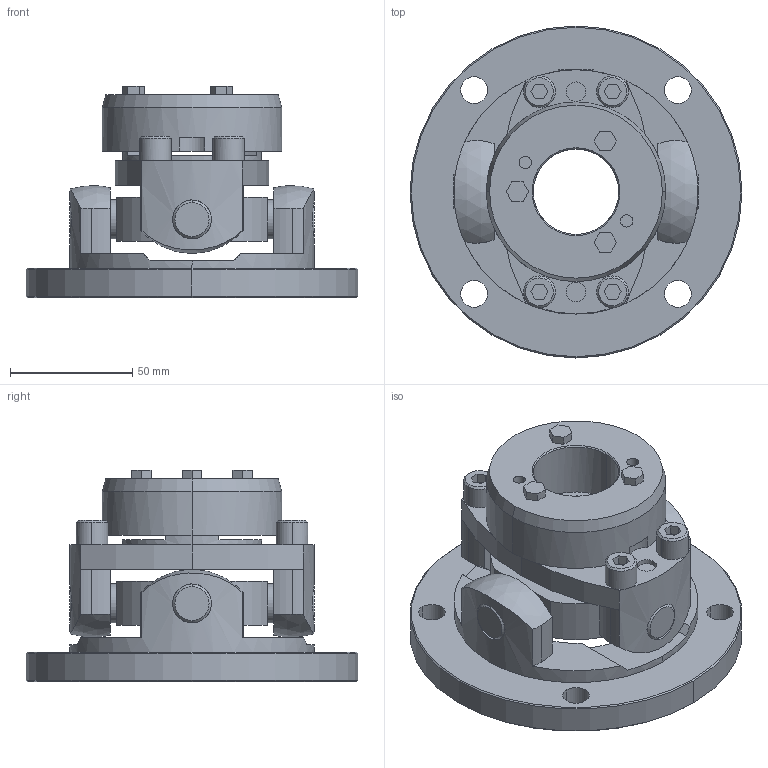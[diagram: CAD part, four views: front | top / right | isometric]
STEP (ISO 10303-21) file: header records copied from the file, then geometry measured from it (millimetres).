
FILE_DESCRIPTION((''),'2;1');
FILE_NAME('UCNF-100T7-35.stp','2011-09-17T16:47:01',(''),(''),'AutoCAD STEP 2000i','AutoCAD 2000i',', , ');
FILE_SCHEMA(('CONFIG_CONTROL_DESIGN'));
Length unit declared in the file: millimetre
Products named in the file (9): UCNF-100T7-35; 忣兜1; UCN100T7-T035; UCN100T7-T030; UCN100T7-T025; UCNF-10002; UCN100T7-T022-1; UCN100T7-T022; UCN100-SEN
Assembly tree (8 placements, depth 2):
  UCNF-100T7-35
    忣兜1
    UCN100T7-T035
    UCN100T7-T030
    UCN100T7-T025
    UCNF-10002
    UCN100T7-T022-1
    UCN100T7-T022
    UCN100-SEN
Bounding box: 136 x 136 x 86.5 mm (x, y, z)
Volume: 384662.6 mm3; surface area: 86639.1 mm2
Topology: 1 solids, 1 shells, 279 faces, 700 edges, 456 vertices
Faces by surface type: plane 131, cylinder 106, cone 38, sphere 4
Entity records: 9045 total; most frequent: CARTESIAN_POINT 1848, DIRECTION 1566, ORIENTED_EDGE 1400, EDGE_CURVE 700, AXIS2_PLACEMENT_3D 594, VERTEX_POINT 456, VECTOR 378, LINE 378
